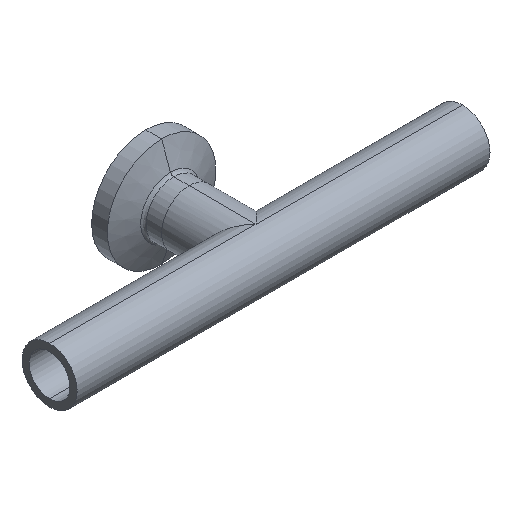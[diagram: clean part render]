
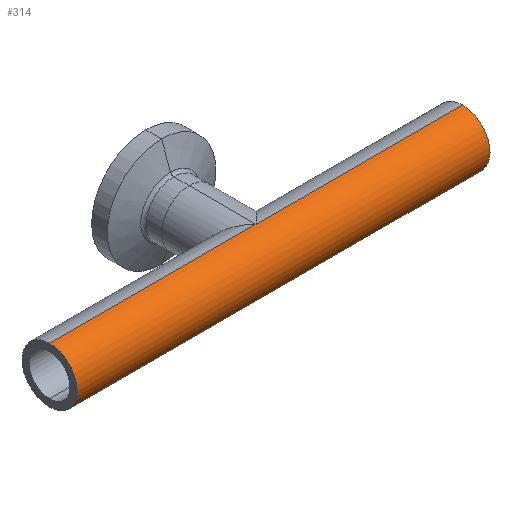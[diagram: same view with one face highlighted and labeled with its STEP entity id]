
A CAD part, isometric view. The second image highlights one B-rep face of the part: STEP entity #314.
In plain terms, the highlighted cylindrical face has radius 6.35 mm (diameter 12.7 mm), a partial arc.
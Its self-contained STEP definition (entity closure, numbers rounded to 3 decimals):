
#18 = LINE ( 'NONE', #185, #870 ) ;
#28 = AXIS2_PLACEMENT_3D ( 'NONE', #213, #205, #199 ) ;
#35 = CARTESIAN_POINT ( 'NONE',  ( -47.6, 0., 6.35 ) ) ;
#42 = EDGE_CURVE ( 'NONE', #965, #285, #18, .T. ) ;
#73 = LINE ( 'NONE', #886, #660 ) ;
#84 = CARTESIAN_POINT ( 'NONE',  ( -47.6, 0., 6.35 ) ) ;
#185 = CARTESIAN_POINT ( 'NONE',  ( -47.6, 0., -6.35 ) ) ;
#196 = VERTEX_POINT ( 'NONE', #853 ) ;
#199 = DIRECTION ( 'NONE',  ( 0., 0., -1. ) ) ;
#205 = DIRECTION ( 'NONE',  ( 1., 0., 0. ) ) ;
#213 = CARTESIAN_POINT ( 'NONE',  ( -47.6, 0., 0. ) ) ;
#219 = DIRECTION ( 'NONE',  ( 1., 0., 0. ) ) ;
#227 = ORIENTED_EDGE ( 'NONE', *, *, #588, .F. ) ;
#248 = DIRECTION ( 'NONE',  ( 1., 0., 0. ) ) ;
#264 = LINE ( 'NONE', #84, #427 ) ;
#270 = ORIENTED_EDGE ( 'NONE', *, *, #409, .F. ) ;
#271 = CARTESIAN_POINT ( 'NONE',  ( -47.6, 0., 0. ) ) ;
#285 = VERTEX_POINT ( 'NONE', #471 ) ;
#291 = DIRECTION ( 'NONE',  ( 0., 0., -1. ) ) ;
#303 = EDGE_CURVE ( 'NONE', #1005, #196, #617, .T. ) ;
#314 = ADVANCED_FACE ( 'NONE', ( #591 ), #806, .T. ) ;
#404 = LINE ( 'NONE', #1013, #613 ) ;
#409 = EDGE_CURVE ( 'NONE', #1066, #761, #73, .T. ) ;
#419 = AXIS2_PLACEMENT_3D ( 'NONE', #971, #960, #625 ) ;
#426 = AXIS2_PLACEMENT_3D ( 'NONE', #271, #219, #291 ) ;
#427 = VECTOR ( 'NONE', #248, 1000. ) ;
#438 = CARTESIAN_POINT ( 'NONE',  ( 0., 0., 6.35 ) ) ;
#471 = CARTESIAN_POINT ( 'NONE',  ( 47.6, 0., -6.35 ) ) ;
#509 = EDGE_LOOP ( 'NONE', ( #227, #1108, #859, #607, #686, #270 ) ) ;
#588 = EDGE_CURVE ( 'NONE', #1005, #1066, #264, .T. ) ;
#591 = FACE_OUTER_BOUND ( 'NONE', #509, .T. ) ;
#598 = CARTESIAN_POINT ( 'NONE',  ( 0., 0., -6.35 ) ) ;
#607 = ORIENTED_EDGE ( 'NONE', *, *, #42, .T. ) ;
#613 = VECTOR ( 'NONE', #1017, 1000. ) ;
#614 = DIRECTION ( 'NONE',  ( 1., 0., 0. ) ) ;
#617 = CIRCLE ( 'NONE', #28, 6.35 ) ;
#624 = EDGE_CURVE ( 'NONE', #196, #965, #404, .T. ) ;
#625 = DIRECTION ( 'NONE',  ( 0., 0., -1. ) ) ;
#631 = CIRCLE ( 'NONE', #419, 6.35 ) ;
#660 = VECTOR ( 'NONE', #1011, 1000. ) ;
#686 = ORIENTED_EDGE ( 'NONE', *, *, #1025, .T. ) ;
#741 = CARTESIAN_POINT ( 'NONE',  ( 47.6, 0., 6.35 ) ) ;
#761 = VERTEX_POINT ( 'NONE', #741 ) ;
#806 = CYLINDRICAL_SURFACE ( 'NONE', #426, 6.35 ) ;
#853 = CARTESIAN_POINT ( 'NONE',  ( -47.6, 0., -6.35 ) ) ;
#859 = ORIENTED_EDGE ( 'NONE', *, *, #624, .T. ) ;
#870 = VECTOR ( 'NONE', #614, 1000. ) ;
#886 = CARTESIAN_POINT ( 'NONE',  ( -47.6, 0., 6.35 ) ) ;
#960 = DIRECTION ( 'NONE',  ( -1., 0., 0. ) ) ;
#965 = VERTEX_POINT ( 'NONE', #598 ) ;
#971 = CARTESIAN_POINT ( 'NONE',  ( 47.6, 0., 0. ) ) ;
#1005 = VERTEX_POINT ( 'NONE', #35 ) ;
#1011 = DIRECTION ( 'NONE',  ( 1., 0., 0. ) ) ;
#1013 = CARTESIAN_POINT ( 'NONE',  ( -47.6, 0., -6.35 ) ) ;
#1017 = DIRECTION ( 'NONE',  ( 1., 0., 0. ) ) ;
#1025 = EDGE_CURVE ( 'NONE', #285, #761, #631, .T. ) ;
#1066 = VERTEX_POINT ( 'NONE', #438 ) ;
#1108 = ORIENTED_EDGE ( 'NONE', *, *, #303, .T. ) ;
